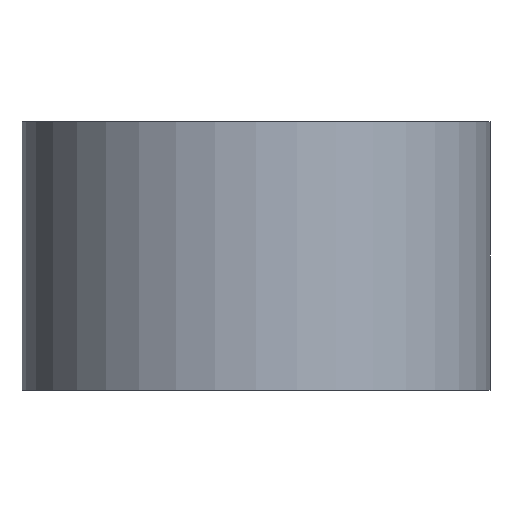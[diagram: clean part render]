
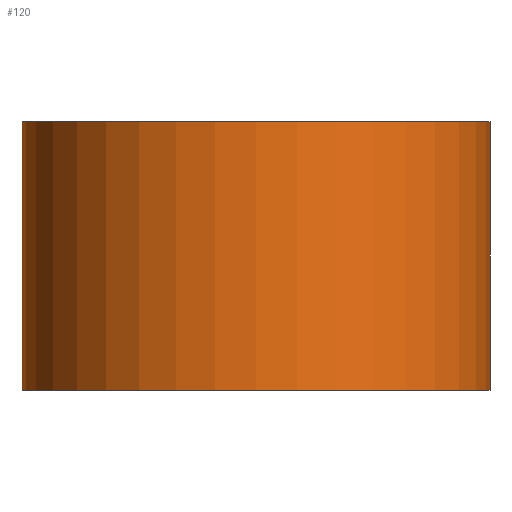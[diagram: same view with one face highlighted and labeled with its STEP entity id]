
A CAD part, front view. The second image highlights one B-rep face of the part: STEP entity #120.
In plain terms, the highlighted cylindrical face has radius 102 mm (diameter 204 mm), a partial arc.
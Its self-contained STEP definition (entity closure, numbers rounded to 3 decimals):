
#64=CARTESIAN_POINT('Axis2P3D Location',(0.,0.,58.5)) ;
#69=CARTESIAN_POINT('Line Origine',(102.,0.,58.5)) ;
#73=CARTESIAN_POINT('Vertex',(102.,0.,0.)) ;
#75=CARTESIAN_POINT('Vertex',(102.,0.,117.)) ;
#82=CARTESIAN_POINT('Vertex',(-102.,0.,0.)) ;
#85=CARTESIAN_POINT('Line Origine',(-102.,0.,58.5)) ;
#89=CARTESIAN_POINT('Vertex',(-102.,0.,117.)) ;
#104=CARTESIAN_POINT('Axis2P3D Location',(0.,0.,0.)) ;
#109=CARTESIAN_POINT('Axis2P3D Location',(0.,0.,117.)) ;
#65=DIRECTION('Axis2P3D Direction',(0.,0.,1.)) ;
#66=DIRECTION('Axis2P3D XDirection',(1.,0.,0.)) ;
#70=DIRECTION('Vector Direction',(0.,0.,1.)) ;
#86=DIRECTION('Vector Direction',(0.,0.,1.)) ;
#105=DIRECTION('Axis2P3D Direction',(0.,0.,1.)) ;
#110=DIRECTION('Axis2P3D Direction',(0.,0.,1.)) ;
#67=AXIS2_PLACEMENT_3D('Cylinder Axis2P3D',#64,#65,#66) ;
#106=AXIS2_PLACEMENT_3D('Circle Axis2P3D',#104,#105,$) ;
#111=AXIS2_PLACEMENT_3D('Circle Axis2P3D',#109,#110,$) ;
#115=ORIENTED_EDGE('',*,*,#91,.F.) ;
#116=ORIENTED_EDGE('',*,*,#108,.T.) ;
#117=ORIENTED_EDGE('',*,*,#77,.T.) ;
#118=ORIENTED_EDGE('',*,*,#113,.F.) ;
#71=VECTOR('Line Direction',#70,1.) ;
#87=VECTOR('Line Direction',#86,1.) ;
#120=ADVANCED_FACE('PartBody',(#119),#68,.T.) ;
#107=CIRCLE('generated circle',#106,102.) ;
#112=CIRCLE('generated circle',#111,102.) ;
#68=CYLINDRICAL_SURFACE('generated cylinder',#67,102.) ;
#77=EDGE_CURVE('',#74,#76,#72,.T.) ;
#91=EDGE_CURVE('',#83,#90,#88,.T.) ;
#108=EDGE_CURVE('',#83,#74,#107,.T.) ;
#113=EDGE_CURVE('',#90,#76,#112,.T.) ;
#114=EDGE_LOOP('',(#115,#116,#117,#118)) ;
#119=FACE_OUTER_BOUND('',#114,.T.) ;
#72=LINE('Line',#69,#71) ;
#88=LINE('Line',#85,#87) ;
#74=VERTEX_POINT('',#73) ;
#76=VERTEX_POINT('',#75) ;
#83=VERTEX_POINT('',#82) ;
#90=VERTEX_POINT('',#89) ;
